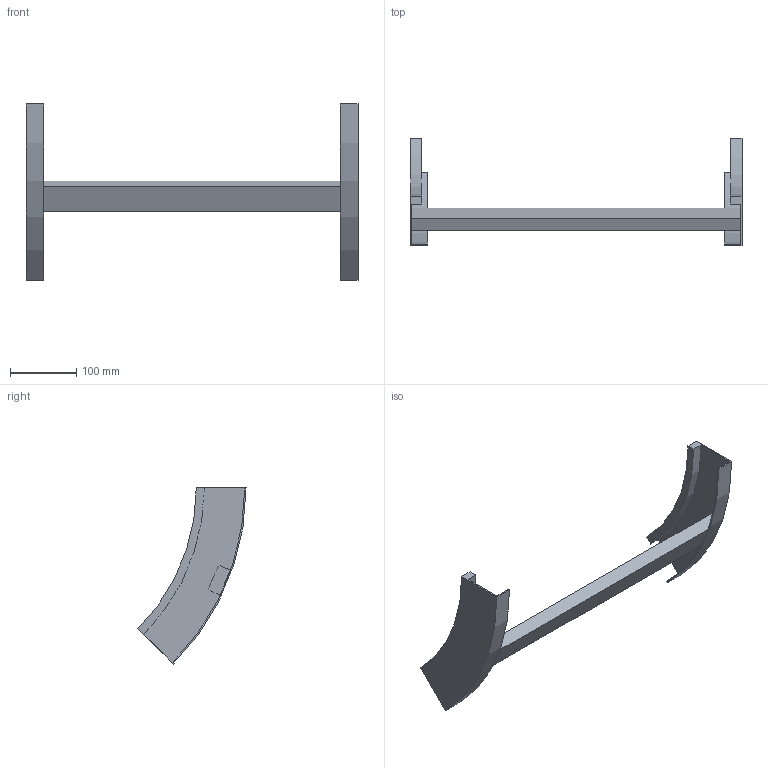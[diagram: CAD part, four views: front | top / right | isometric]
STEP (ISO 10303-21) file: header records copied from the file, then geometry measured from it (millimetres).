
FILE_DESCRIPTION (( 'STEP AP214' ), '1' );
FILE_NAME ('B2X31B3C500XX.step', '2025-03-20T10:10:26', ( '' ), ( '' ), 'SwSTEP 2.0', 'SolidWorks 2023', '' );
FILE_SCHEMA (( 'AUTOMOTIVE_DESIGN' ));
Length unit declared in the file: millimetre
Products named in the file (3): B2X31B3C500XX; B2_LONGH.SALITA_45°_H75_R300; TRAVERSINO_500
Assembly tree (3 placements, depth 2):
  B2X31B3C500XX
    B2_LONGH.SALITA_45°_H75_R300  x2
    TRAVERSINO_500
Bounding box: 500 x 162.87 x 265.17 mm (x, y, z)
Volume: 602942.9 mm3; surface area: 189601.3 mm2
Topology: 3 solids, 3 shells, 26 faces, 60 edges, 40 vertices
Faces by surface type: plane 18, cylinder 8
Entity records: 544 total; most frequent: DIRECTION 88, CARTESIAN_POINT 82, ORIENTED_EDGE 72, EDGE_CURVE 36, AXIS2_PLACEMENT_3D 30, VECTOR 28, LINE 28, VERTEX_POINT 24
